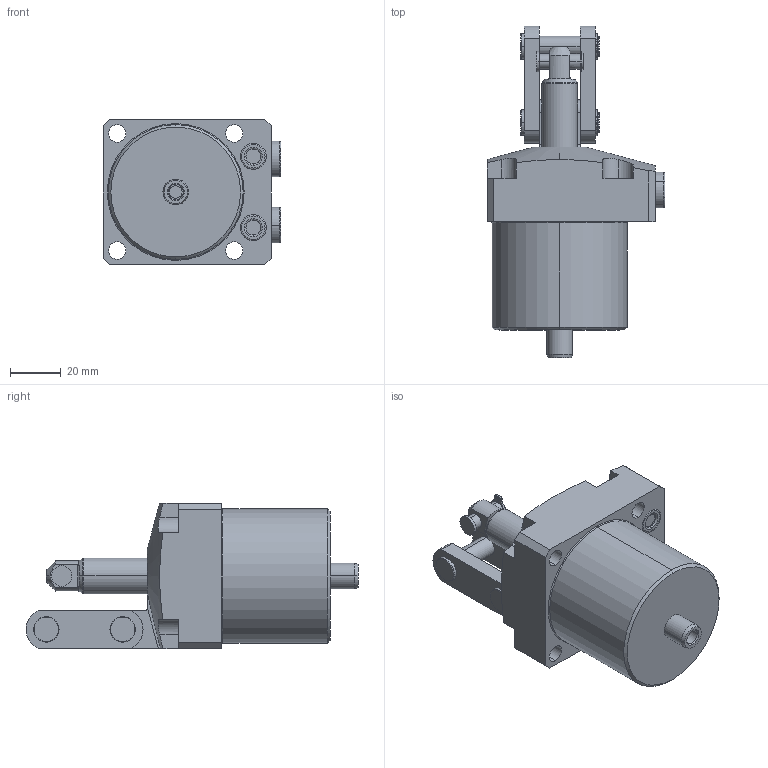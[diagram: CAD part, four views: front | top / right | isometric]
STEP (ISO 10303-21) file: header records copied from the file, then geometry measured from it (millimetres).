
FILE_DESCRIPTION(/* description */ (''),/* implementation_level */ '2;1');
FILE_NAME(/* name */ 'TPC06-RD.stp',/* time_stamp */ '2025-01-05T10:14:39+08:00',/* author */ (''),/* organization */ (''),/* preprocessor_version */ 'ST-DEVELOPER v16.7',/* originating_system */ 'SIEMENS PLM Software NX 12.0',/* authorisation */ '');
FILE_SCHEMA (('AUTOMOTIVE_DESIGN { 1 0 10303 214 3 1 1 1 }'));
Length unit declared in the file: millimetre
Products named in the file (5): TPC06-RD-03; TPC06-RD-02; TPC06-RD-01; TPC06-RD-04; TPC06-RD_stp
Assembly tree (5 placements, depth 2):
  TPC06-RD_stp
    TPC06-RD-04  x2
    TPC06-RD-01
    TPC06-RD-02
    TPC06-RD-03
Bounding box: 69.8 x 130.5 x 57 mm (x, y, z)
Volume: 202828 mm3; surface area: 37947.7 mm2
Topology: 5 solids, 7 shells, 296 faces, 696 edges, 442 vertices
Faces by surface type: cylinder 124, plane 114, torus 34, cone 24
Entity records: 8248 total; most frequent: CARTESIAN_POINT 1533, DIRECTION 1488, ORIENTED_EDGE 1300, EDGE_CURVE 650, AXIS2_PLACEMENT_3D 595, VERTEX_POINT 414, EDGE_LOOP 322, CIRCLE 315
